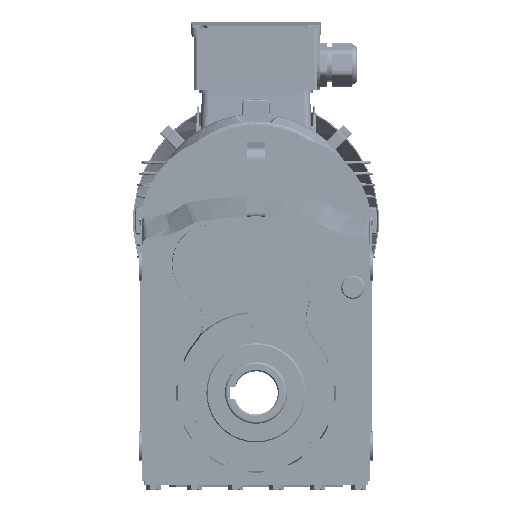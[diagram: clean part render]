
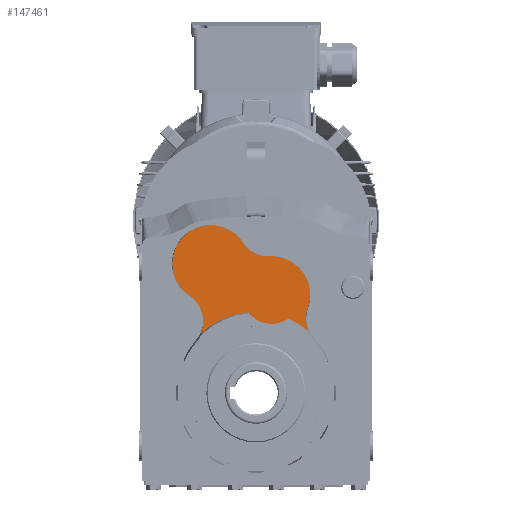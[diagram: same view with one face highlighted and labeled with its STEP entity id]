
A CAD part, top view. The second image highlights one B-rep face of the part: STEP entity #147461.
In plain terms, the highlighted planar face has unit normal (0, 0, 1).
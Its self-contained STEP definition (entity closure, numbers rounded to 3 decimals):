
#3228 = EDGE_CURVE ( 'NONE', #148726, #148586, #200933, .T. ) ;
#8370 = CARTESIAN_POINT ( 'NONE',  ( 9.737, 133.931, -9. ) ) ;
#8456 = DIRECTION ( 'NONE',  ( 0., 0., -1. ) ) ;
#8495 = DIRECTION ( 'NONE',  ( 1., 0., 0. ) ) ;
#9737 = DIRECTION ( 'NONE',  ( 0., 0., 1. ) ) ;
#9784 = DIRECTION ( 'NONE',  ( 1., 0., 0. ) ) ;
#9818 = CARTESIAN_POINT ( 'NONE',  ( 12.58, 79.005, -9. ) ) ;
#12337 = DIRECTION ( 'NONE',  ( 0., 0., -1. ) ) ;
#12389 = DIRECTION ( 'NONE',  ( 0., 0., 1. ) ) ;
#12393 = CARTESIAN_POINT ( 'NONE',  ( 0., 0., -9. ) ) ;
#12412 = DIRECTION ( 'NONE',  ( 0., 1., 0. ) ) ;
#12476 = CARTESIAN_POINT ( 'NONE',  ( 64.243, 60.14, -9. ) ) ;
#12499 = DIRECTION ( 'NONE',  ( 1., 0., 0. ) ) ;
#12565 = DIRECTION ( 'NONE',  ( -1., 0., 0. ) ) ;
#12616 = CARTESIAN_POINT ( 'NONE',  ( 12.58, 79.005, -9. ) ) ;
#12618 = DIRECTION ( 'NONE',  ( 0., 0., -1. ) ) ;
#12688 = DIRECTION ( 'NONE',  ( 0., -1., 0. ) ) ;
#12689 = DIRECTION ( 'NONE',  ( -1., 0., 0. ) ) ;
#12712 = CARTESIAN_POINT ( 'NONE',  ( 0., 0., -9. ) ) ;
#12751 = DIRECTION ( 'NONE',  ( 0., 0., -1. ) ) ;
#12775 = CARTESIAN_POINT ( 'NONE',  ( -66.315, 57.847, -9. ) ) ;
#12778 = DIRECTION ( 'NONE',  ( 0., 0., -1. ) ) ;
#15594 = CARTESIAN_POINT ( 'NONE',  ( -67.355, 104.006, -9. ) ) ;
#15982 = CARTESIAN_POINT ( 'NONE',  ( -53.236, 78.034, -9. ) ) ;
#18716 = AXIS2_PLACEMENT_3D ( 'NONE', #67200, #67130, #67178 ) ;
#22567 = DIRECTION ( 'NONE',  ( -1., 0., 0. ) ) ;
#22570 = DIRECTION ( 'NONE',  ( 0., 0., -1. ) ) ;
#22587 = CARTESIAN_POINT ( 'NONE',  ( -36.409, 104.006, -9. ) ) ;
#25872 = FACE_OUTER_BOUND ( 'NONE', #220052, .T. ) ;
#29787 = CARTESIAN_POINT ( 'NONE',  ( -44.542, 47.623, -9. ) ) ;
#29809 = CARTESIAN_POINT ( 'NONE',  ( -10.445, 120.843, -9. ) ) ;
#31782 = CARTESIAN_POINT ( 'NONE',  ( 26.076, 59.766, -9. ) ) ;
#31807 = CARTESIAN_POINT ( 'NONE',  ( -6.224, 64.91, -9. ) ) ;
#31982 = CARTESIAN_POINT ( 'NONE',  ( 41.649, 68.39, -9. ) ) ;
#31987 = CARTESIAN_POINT ( 'NONE',  ( 42.843, 49.158, -9. ) ) ;
#32007 = CARTESIAN_POINT ( 'NONE',  ( 10.98, 109.909, -9. ) ) ;
#51472 = DIRECTION ( 'NONE',  ( -1., 0., 0. ) ) ;
#51500 = CARTESIAN_POINT ( 'NONE',  ( -36.409, 104.006, -9. ) ) ;
#51509 = DIRECTION ( 'NONE',  ( 0., 0., -1. ) ) ;
#67130 = DIRECTION ( 'NONE',  ( 0., 0., 1. ) ) ;
#67166 = PLANE ( 'NONE',  #18716 ) ;
#67178 = DIRECTION ( 'NONE',  ( 1., 0., 0. ) ) ;
#67200 = CARTESIAN_POINT ( 'NONE',  ( -36.409, 104.006, -9. ) ) ;
#96796 = ORIENTED_EDGE ( 'NONE', *, *, #231966, .F. ) ;
#96840 = ORIENTED_EDGE ( 'NONE', *, *, #231788, .T. ) ;
#96891 = ORIENTED_EDGE ( 'NONE', *, *, #231830, .T. ) ;
#96994 = ORIENTED_EDGE ( 'NONE', *, *, #231064, .T. ) ;
#96997 = ORIENTED_EDGE ( 'NONE', *, *, #231641, .F. ) ;
#97024 = ORIENTED_EDGE ( 'NONE', *, *, #231677, .T. ) ;
#97045 = ORIENTED_EDGE ( 'NONE', *, *, #3228, .F. ) ;
#97098 = ORIENTED_EDGE ( 'NONE', *, *, #231687, .F. ) ;
#97162 = ORIENTED_EDGE ( 'NONE', *, *, #231776, .T. ) ;
#120405 = AXIS2_PLACEMENT_3D ( 'NONE', #51500, #51509, #51472 ) ;
#139116 = VERTEX_POINT ( 'NONE', #31807 ) ;
#139261 = VERTEX_POINT ( 'NONE', #31782 ) ;
#139983 = VERTEX_POINT ( 'NONE', #31982 ) ;
#140298 = VERTEX_POINT ( 'NONE', #31987 ) ;
#140383 = VERTEX_POINT ( 'NONE', #32007 ) ;
#140565 = VERTEX_POINT ( 'NONE', #29787 ) ;
#140697 = VERTEX_POINT ( 'NONE', #29809 ) ;
#147461 = ADVANCED_FACE ( 'NONE', ( #25872 ), #67166, .T. ) ;
#148586 = VERTEX_POINT ( 'NONE', #15594 ) ;
#148726 = VERTEX_POINT ( 'NONE', #15982 ) ;
#195544 = AXIS2_PLACEMENT_3D ( 'NONE', #12712, #12751, #12689 ) ;
#195552 = AXIS2_PLACEMENT_3D ( 'NONE', #12476, #12337, #12499 ) ;
#195582 = AXIS2_PLACEMENT_3D ( 'NONE', #12393, #12389, #12412 ) ;
#195612 = AXIS2_PLACEMENT_3D ( 'NONE', #12775, #12778, #12688 ) ;
#195614 = AXIS2_PLACEMENT_3D ( 'NONE', #8370, #8456, #8495 ) ;
#195628 = AXIS2_PLACEMENT_3D ( 'NONE', #22587, #22570, #22567 ) ;
#195652 = AXIS2_PLACEMENT_3D ( 'NONE', #9818, #9737, #9784 ) ;
#195662 = AXIS2_PLACEMENT_3D ( 'NONE', #12616, #12618, #12565 ) ;
#200933 = CIRCLE ( 'NONE', #120405, 30.946 ) ;
#210015 = CIRCLE ( 'NONE', #195652, 23.5 ) ;
#210621 = CIRCLE ( 'NONE', #195552, 24.054 ) ;
#210655 = CIRCLE ( 'NONE', #195662, 30.946 ) ;
#210727 = CIRCLE ( 'NONE', #195582, 65.207 ) ;
#210857 = CIRCLE ( 'NONE', #195544, 65.207 ) ;
#210861 = CIRCLE ( 'NONE', #195612, 24.054 ) ;
#210989 = CIRCLE ( 'NONE', #195614, 24.054 ) ;
#211003 = CIRCLE ( 'NONE', #195628, 30.946 ) ;
#220052 = EDGE_LOOP ( 'NONE', ( #97045, #96840, #96997, #96994, #97162, #97024, #97098, #96891, #96796 ) ) ;
#231064 = EDGE_CURVE ( 'NONE', #139116, #139261, #210015, .T. ) ;
#231641 = EDGE_CURVE ( 'NONE', #139116, #140565, #210727, .T. ) ;
#231677 = EDGE_CURVE ( 'NONE', #140298, #139983, #210621, .T. ) ;
#231687 = EDGE_CURVE ( 'NONE', #140383, #139983, #210655, .T. ) ;
#231776 = EDGE_CURVE ( 'NONE', #139261, #140298, #210857, .T. ) ;
#231788 = EDGE_CURVE ( 'NONE', #148726, #140565, #210861, .T. ) ;
#231830 = EDGE_CURVE ( 'NONE', #140383, #140697, #210989, .T. ) ;
#231966 = EDGE_CURVE ( 'NONE', #148586, #140697, #211003, .T. ) ;
